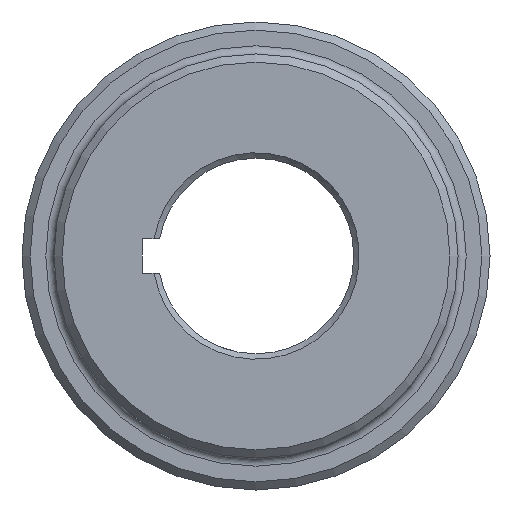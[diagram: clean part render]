
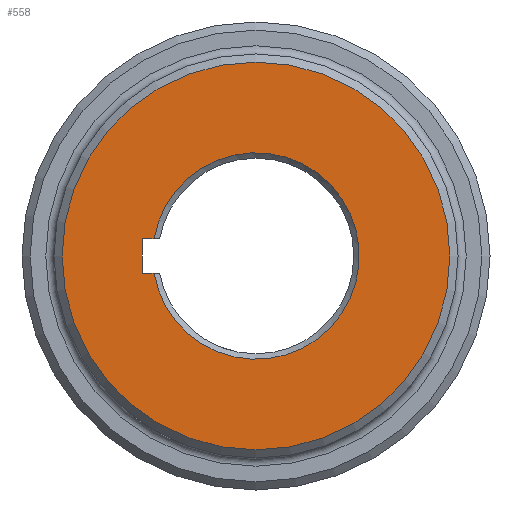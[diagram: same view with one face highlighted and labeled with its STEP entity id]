
A CAD part, left-side view. The second image highlights one B-rep face of the part: STEP entity #558.
In plain terms, the highlighted planar face has unit normal (-1, 0, 0).
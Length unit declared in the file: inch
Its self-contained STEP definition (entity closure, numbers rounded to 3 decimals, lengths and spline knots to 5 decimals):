
#33 = FACE_BOUND ( 'NONE', #908, .T. ) ;
#76 = DIRECTION ( 'NONE',  ( 0., -1., 0. ) ) ;
#145 = FACE_OUTER_BOUND ( 'NONE', #1440, .T. ) ;
#222 = DIRECTION ( 'NONE',  ( 0., 0., -1. ) ) ;
#273 = CARTESIAN_POINT ( 'NONE',  ( 0., 0.836, -0.125 ) ) ;
#287 = CARTESIAN_POINT ( 'NONE',  ( 0., 0., -0.125 ) ) ;
#314 = CIRCLE ( 'NONE', #776, 0.759 ) ;
#320 = DIRECTION ( 'NONE',  ( 0., 0., -1. ) ) ;
#321 = PLANE ( 'NONE',  #861 ) ;
#396 = ORIENTED_EDGE ( 'NONE', *, *, #994, .F. ) ;
#416 = CARTESIAN_POINT ( 'NONE',  ( 0., 0., 0.125 ) ) ;
#431 = VERTEX_POINT ( 'NONE', #1696 ) ;
#532 = DIRECTION ( 'NONE',  ( -1., 0., 0. ) ) ;
#533 = DIRECTION ( 'NONE',  ( 1., 0., 0. ) ) ;
#552 = VERTEX_POINT ( 'NONE', #1035 ) ;
#558 = ADVANCED_FACE ( 'NONE', ( #145, #33 ), #321, .F. ) ;
#579 = CARTESIAN_POINT ( 'NONE',  ( 0., 0.836, 0.125 ) ) ;
#662 = ORIENTED_EDGE ( 'NONE', *, *, #2016, .F. ) ;
#687 = EDGE_CURVE ( 'NONE', #431, #431, #2163, .T. ) ;
#724 = DIRECTION ( 'NONE',  ( 0., 1., 0. ) ) ;
#776 = AXIS2_PLACEMENT_3D ( 'NONE', #1374, #1883, #222 ) ;
#825 = CARTESIAN_POINT ( 'NONE',  ( 0., 0.74864, -0.125 ) ) ;
#838 = LINE ( 'NONE', #416, #988 ) ;
#847 = CARTESIAN_POINT ( 'NONE',  ( 0., 0.74864, 0.125 ) ) ;
#861 = AXIS2_PLACEMENT_3D ( 'NONE', #2008, #533, #2052 ) ;
#908 = EDGE_LOOP ( 'NONE', ( #396, #1324, #662, #1603 ) ) ;
#988 = VECTOR ( 'NONE', #724, 39.37008 ) ;
#994 = EDGE_CURVE ( 'NONE', #1857, #1514, #838, .T. ) ;
#1035 = CARTESIAN_POINT ( 'NONE',  ( 0., 0.836, -0.125 ) ) ;
#1092 = AXIS2_PLACEMENT_3D ( 'NONE', #2202, #532, #320 ) ;
#1285 = LINE ( 'NONE', #287, #1378 ) ;
#1324 = ORIENTED_EDGE ( 'NONE', *, *, #1911, .T. ) ;
#1374 = CARTESIAN_POINT ( 'NONE',  ( 0., 0., 0. ) ) ;
#1378 = VECTOR ( 'NONE', #76, 39.37008 ) ;
#1440 = EDGE_LOOP ( 'NONE', ( #2048 ) ) ;
#1514 = VERTEX_POINT ( 'NONE', #579 ) ;
#1542 = LINE ( 'NONE', #273, #1596 ) ;
#1549 = EDGE_CURVE ( 'NONE', #1514, #552, #1542, .T. ) ;
#1596 = VECTOR ( 'NONE', #2227, 39.37008 ) ;
#1603 = ORIENTED_EDGE ( 'NONE', *, *, #1549, .F. ) ;
#1696 = CARTESIAN_POINT ( 'NONE',  ( 0., 0., -1.425 ) ) ;
#1857 = VERTEX_POINT ( 'NONE', #847 ) ;
#1883 = DIRECTION ( 'NONE',  ( 1., 0., 0. ) ) ;
#1895 = VERTEX_POINT ( 'NONE', #825 ) ;
#1911 = EDGE_CURVE ( 'NONE', #1857, #1895, #314, .T. ) ;
#2008 = CARTESIAN_POINT ( 'NONE',  ( 0., 0., 0. ) ) ;
#2016 = EDGE_CURVE ( 'NONE', #552, #1895, #1285, .T. ) ;
#2048 = ORIENTED_EDGE ( 'NONE', *, *, #687, .T. ) ;
#2052 = DIRECTION ( 'NONE',  ( 0., 0., -1. ) ) ;
#2163 = CIRCLE ( 'NONE', #1092, 1.425 ) ;
#2202 = CARTESIAN_POINT ( 'NONE',  ( 0., 0., 0. ) ) ;
#2227 = DIRECTION ( 'NONE',  ( 0., 0., -1. ) ) ;
